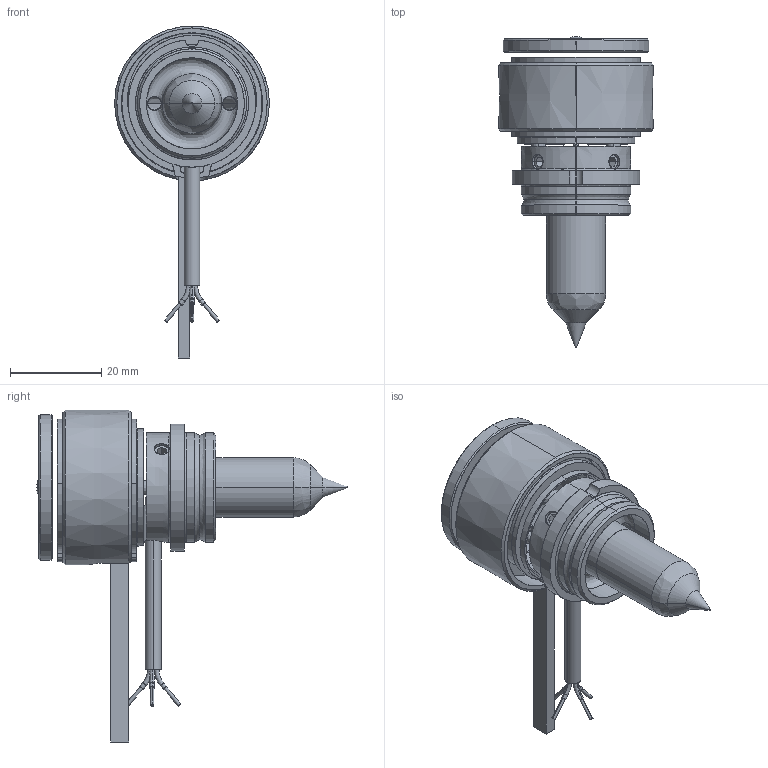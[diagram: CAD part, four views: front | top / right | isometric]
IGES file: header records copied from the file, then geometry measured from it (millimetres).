
Start section: SolidWorks IGES file using analytic representation for surfaces
Global section: file name: C:\Documents and Settings\ws-20\Desktop\TEM\UGGS2510-S-0 [Øf-0.25].IGS; native system: SolidWorks 2012; preprocessor: SolidWorks 2012; author: ws-20; date: 120516.092655; units: millimetre
Bounding box: 34 x 68.3 x 72.9 mm (x, y, z)
Surface area: 15286 mm2 (no closed solid volume)
Topology: 0 solids, 0 shells, 207 faces, 2967 edges, 2961 vertices
Faces by surface type: revolution 129, bspline 78
